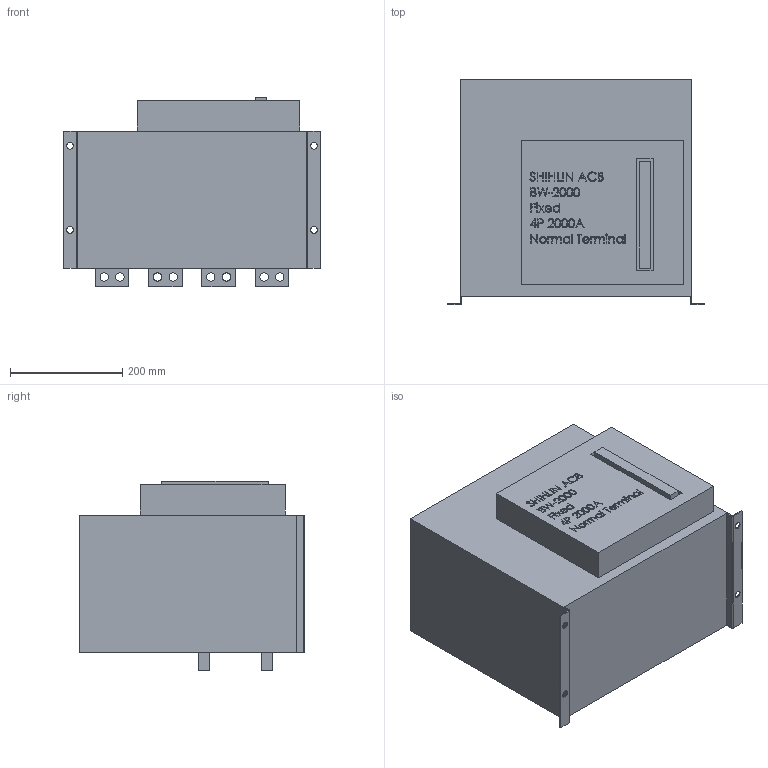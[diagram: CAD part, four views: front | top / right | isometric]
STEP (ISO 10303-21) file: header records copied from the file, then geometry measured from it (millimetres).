
FILE_DESCRIPTION (( 'STEP AP203' ), '1' );
FILE_NAME ('BW-2000-Fixed-4P-2000A-Normal Terminal.STEP', '2020-04-09T10:55:05', ( '' ), ( '' ), 'SwSTEP 2.0', 'SolidWorks 2017', '' );
FILE_SCHEMA (( 'CONFIG_CONTROL_DESIGN' ));
Length unit declared in the file: millimetre
Products named in the file (1): BW-2000-Fixed-4P-2000A-Normal Terminal
Bounding box: 457 x 402 x 337 mm (x, y, z)
Volume: 43470737.7 mm3; surface area: 895657.4 mm2
Topology: 3 solids, 3 shells, 657 faces, 1725 edges, 1150 vertices
Faces by surface type: plane 403, bspline 212, cylinder 42
Entity records: 32108 total; most frequent: CARTESIAN_POINT 17089, ORIENTED_EDGE 3450, DIRECTION 2277, EDGE_CURVE 1725, VECTOR 1217, LINE 1217, VERTEX_POINT 1150, EDGE_LOOP 773
